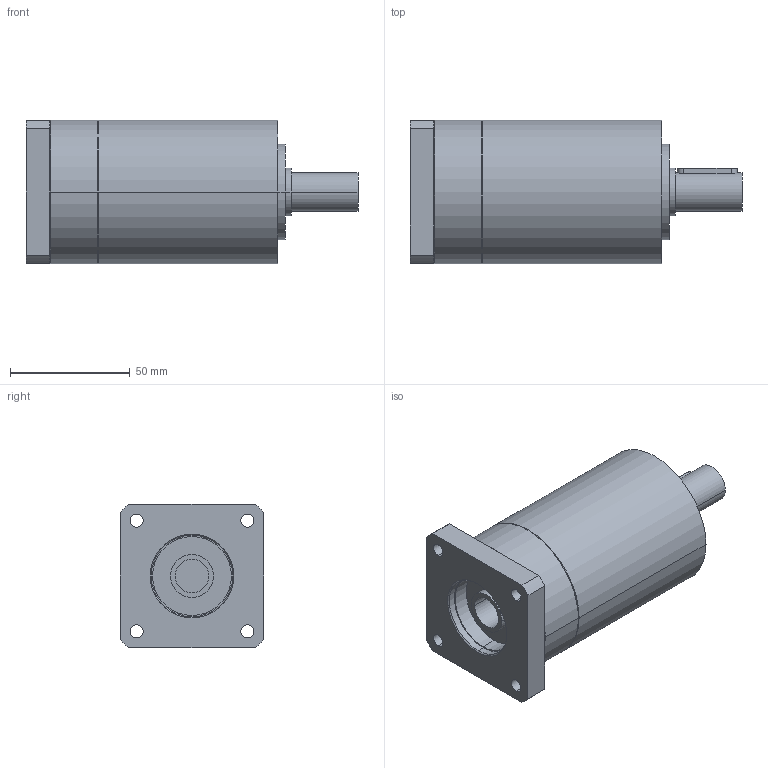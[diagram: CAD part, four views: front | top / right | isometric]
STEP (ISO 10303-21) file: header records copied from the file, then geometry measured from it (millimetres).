
FILE_DESCRIPTION(('CoCreate Modeling STEP Export'),'2;1');
FILE_NAME('GPR75_ig-9-12-16-20-24-30-36_16_B14_14_P26.stp','2014-08-25T16:03:36',(''),(''),'CoCreate Modeling STEP processor for AP214 (Solid Model)','CoCreate Modeling 16.00C 25-Feb-2009 (C) Parametric Technology GmbH','');
FILE_SCHEMA(('AUTOMOTIVE_DESIGN { 1 0 10303 214 1 1 1 1 }'));
Length unit declared in the file: millimetre
Products named in the file (2): GPR75_ig-9-12-16-20-24-30-36_16_B14_14_P26
Assembly tree (1 placements, depth 2):
  GPR75_ig-9-12-16-20-24-30-36_16_B14_14_P26
    GPR75_ig-9-12-16-20-24-30-36_16_B14_14_P26
Bounding box: 138.9 x 60 x 60 mm (x, y, z)
Volume: 301128 mm3; surface area: 33799.9 mm2
Topology: 1 solids, 1 shells, 88 faces, 228 edges, 154 vertices
Faces by surface type: cylinder 50, plane 30, cone 8
Entity records: 2317 total; most frequent: ORIENTED_EDGE 452, CARTESIAN_POINT 416, DIRECTION 320, EDGE_CURVE 226, VERTEX_POINT 154, AXIS2_PLACEMENT_3D 122, EDGE_LOOP 110, FACE_OUTER_BOUND 88
